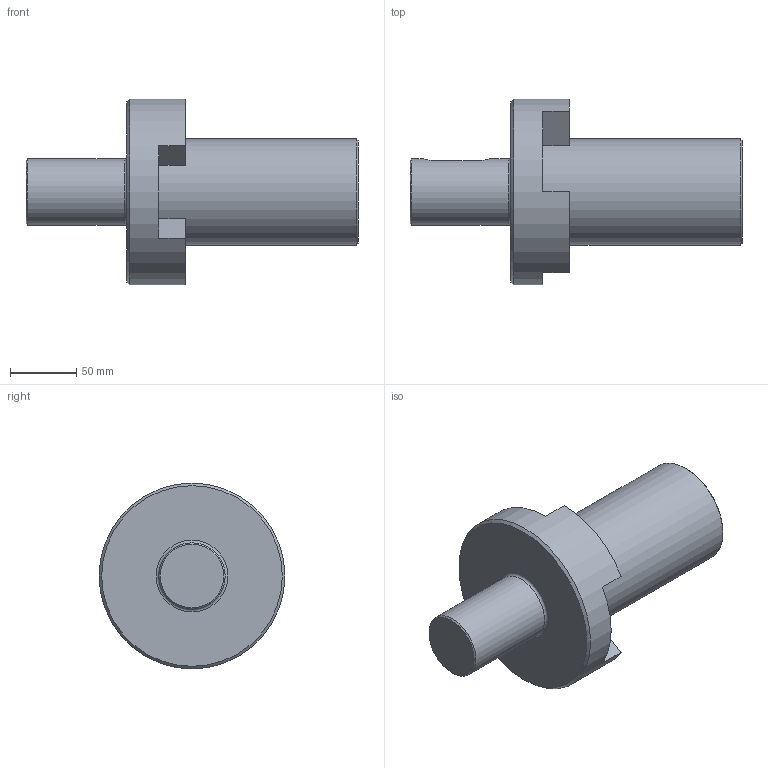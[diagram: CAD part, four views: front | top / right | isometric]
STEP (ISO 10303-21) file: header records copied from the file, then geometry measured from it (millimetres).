
FILE_DESCRIPTION(/* description */ (''),/* implementation_level */ '2;1');
FILE_NAME(/* name */ 'C:\Users\jbart\OneDrive\Plocha\Nová složka\3D modely - stp\Hřídel I.stp',/* time_stamp */ '2025-05-15T16:48:04+02:00',/* author */ ('jbart'),/* organization */ (''),/* preprocessor_version */ 'ST-DEVELOPER v18.1',/* originating_system */ 'Autodesk Inventor 2022',/* authorisation */ '');
FILE_SCHEMA (('AUTOMOTIVE_DESIGN { 1 0 10303 214 3 1 1 }'));
Length unit declared in the file: millimetre
Products named in the file (1): Hřídel I
Bounding box: 250 x 140 x 140 mm (x, y, z)
Volume: 1371086.7 mm3; surface area: 96138.2 mm2
Topology: 1 solids, 1 shells, 31 faces, 78 edges, 51 vertices
Faces by surface type: plane 18, cylinder 7, cone 3, torus 3
Full cylindrical faces by diameter (mm): 50 x1, 80 x1, 140 x1
Entity records: 1009 total; most frequent: CARTESIAN_POINT 197, DIRECTION 172, ORIENTED_EDGE 156, EDGE_CURVE 78, AXIS2_PLACEMENT_3D 66, VERTEX_POINT 51, LINE 40, VECTOR 40
